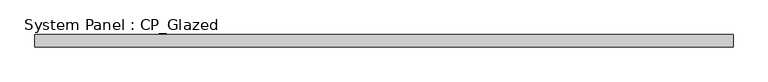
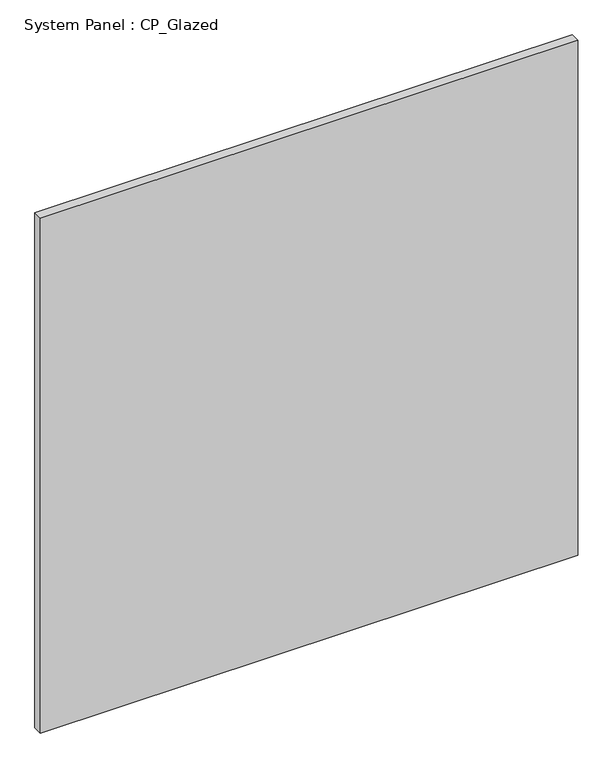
"""IFC4 building model written with IfcOpenShell, lengths in millimetres: plate geometry, System Panel : CP_Glazed."""

from ifc_helpers import new_model, si_unit, origin, origin_with_axes, place, context, project, spatial, polyline, outline, extrude, source, transform, mapped, element, save


def system_panel_cp_glazed_1b12bc0d(model_context):
    return source(origin(), model_context, "Body", "SweptSolid", [
        extrude(outline(polyline([(730.25, 19.05), (-730.25, 19.05), (-730.25, 44.45), (730.25, 44.45), (730.25, 19.05)])), origin_with_axes(), (0.0, 0.0, 1.0), 1479.55),
    ])


if __name__ == "__main__":
    model = new_model("IFC4")
    model_context = context("Model", 3, world=origin())
    ifc_project = project(units=[si_unit("LENGTHUNIT", "METRE", prefix="MILLI")], contexts=[model_context])
    site = spatial("IfcSite", under=ifc_project)
    building = spatial("IfcBuilding", under=site)
    placement = place(None, origin())
    system_panel_cp_glazed_shape = system_panel_cp_glazed_1b12bc0d(model_context)
    element("IfcPlate", 1, ObjectType="System Panel : CP_Glazed", at=placement, inside=building, context=model_context, shape_type="MappedRepresentation", body=[
        mapped(system_panel_cp_glazed_shape, transform((0.0, 0.0, 0.0), x_axis=(1.0, 0.0, 0.0), y_axis=(0.0, 1.0, 0.0), z_axis=(0.0, 0.0, 1.0))),
    ])
    save(model, "model.ifc")
